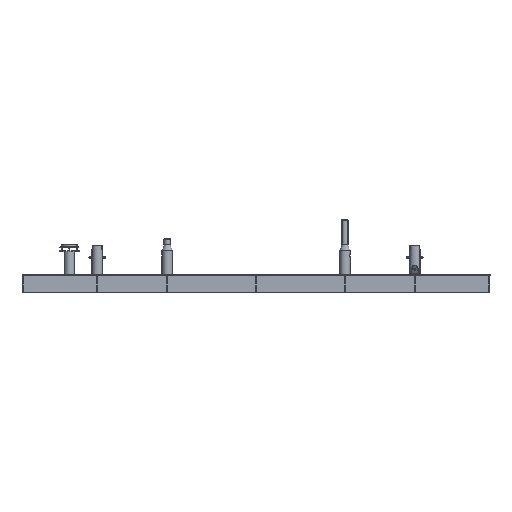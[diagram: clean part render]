
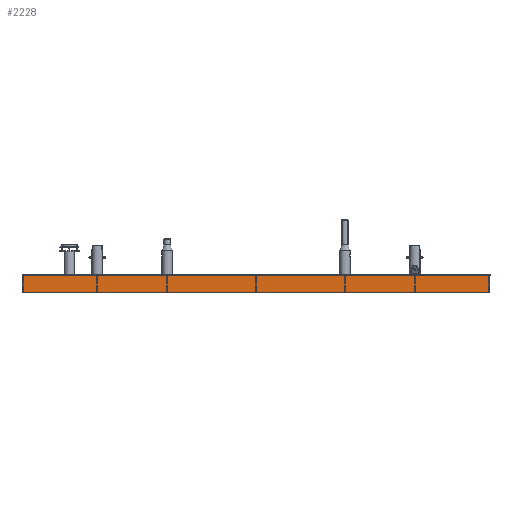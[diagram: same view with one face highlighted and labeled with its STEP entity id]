
A CAD part, left-side view. The second image highlights one B-rep face of the part: STEP entity #2228.
In plain terms, the highlighted planar face has unit normal (-1, 0, 0).
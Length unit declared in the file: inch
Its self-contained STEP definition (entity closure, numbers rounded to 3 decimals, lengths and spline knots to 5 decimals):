
#142=FACE_OUTER_BOUND('',#4611,.T.);
#2228=ADVANCED_FACE('',(#142),#2508,.F.);
#2508=PLANE('',#13216);
#4611=EDGE_LOOP('',(#6942,#6943,#6944,#6945));
#6942=ORIENTED_EDGE('',*,*,#10060,.F.);
#6943=ORIENTED_EDGE('',*,*,#10063,.F.);
#6944=ORIENTED_EDGE('',*,*,#10056,.F.);
#6945=ORIENTED_EDGE('',*,*,#10064,.F.);
#8565=VERTEX_POINT('',#20079);
#8566=VERTEX_POINT('',#20081);
#8569=VERTEX_POINT('',#20088);
#8570=VERTEX_POINT('',#20090);
#10056=EDGE_CURVE('',#8565,#8566,#11042,.T.);
#10060=EDGE_CURVE('',#8569,#8570,#11046,.T.);
#10063=EDGE_CURVE('',#8566,#8569,#11049,.T.);
#10064=EDGE_CURVE('',#8570,#8565,#11050,.T.);
#11042=LINE('',#20080,#11897);
#11046=LINE('',#20089,#11901);
#11049=LINE('',#20095,#11904);
#11050=LINE('',#20096,#11905);
#11897=VECTOR('',#15664,1.);
#11901=VECTOR('',#15670,1.);
#11904=VECTOR('',#15675,1.);
#11905=VECTOR('',#15676,1.);
#13216=AXIS2_PLACEMENT_3D('',#20097,#15677,#15678);
#15664=DIRECTION('',(0.,0.,-1.));
#15670=DIRECTION('',(0.,0.,1.));
#15675=DIRECTION('',(0.,1.,0.));
#15676=DIRECTION('',(0.,-1.,0.));
#15677=DIRECTION('',(1.,0.,0.));
#15678=DIRECTION('',(0.,0.,-1.));
#20079=CARTESIAN_POINT('',(-300.3125,-239.6875,-0.625));
#20080=CARTESIAN_POINT('',(-300.3125,-239.6875,-0.625));
#20081=CARTESIAN_POINT('',(-300.3125,-239.6875,-18.));
#20088=CARTESIAN_POINT('',(-300.3125,239.6875,-18.));
#20089=CARTESIAN_POINT('',(-300.3125,239.6875,-0.625));
#20090=CARTESIAN_POINT('',(-300.3125,239.6875,-0.625));
#20095=CARTESIAN_POINT('',(-300.3125,240.,-18.));
#20096=CARTESIAN_POINT('',(-300.3125,240.,-0.625));
#20097=CARTESIAN_POINT('',(-300.3125,240.,-0.625));
